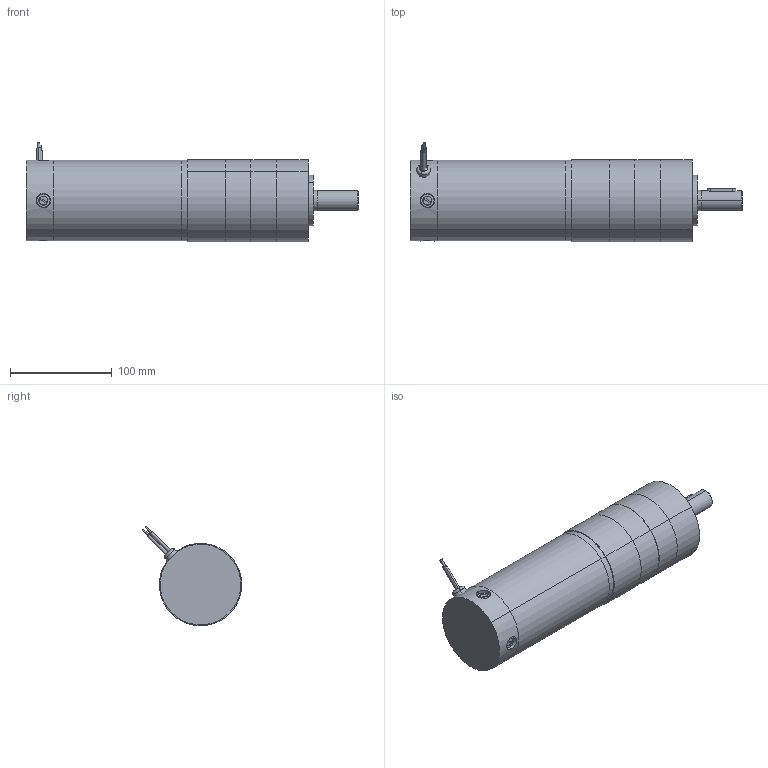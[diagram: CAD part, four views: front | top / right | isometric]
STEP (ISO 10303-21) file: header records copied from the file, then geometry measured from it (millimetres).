
FILE_DESCRIPTION (( 'STEP AP203' ), '1' );
FILE_NAME ('d33655bgp2.step', '2018-12-07T19:34:36', ( '' ), ( '' ), 'SwSTEP 2.0', 'SolidWorks 2017', '' );
FILE_SCHEMA (( 'CONFIG_CONTROL_DESIGN' ));
Length unit declared in the file: inch
Products named in the file (1): d33655bgp2
Bounding box: 326.25 x 97.55 x 97.55 mm (x, y, z)
Volume: 1419134.7 mm3; surface area: 165487.7 mm2
Topology: 19 solids, 19 shells, 362 faces, 764 edges, 476 vertices
Faces by surface type: cylinder 153, plane 150, cone 49, torus 6, sphere 4
Entity records: 10154 total; most frequent: CARTESIAN_POINT 2117, DIRECTION 1801, ORIENTED_EDGE 1496, EDGE_CURVE 748, AXIS2_PLACEMENT_3D 720, VERTEX_POINT 476, EDGE_LOOP 430, FACE_OUTER_BOUND 362
